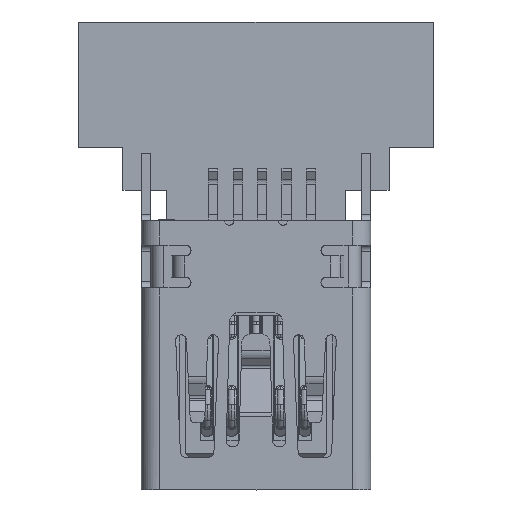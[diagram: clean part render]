
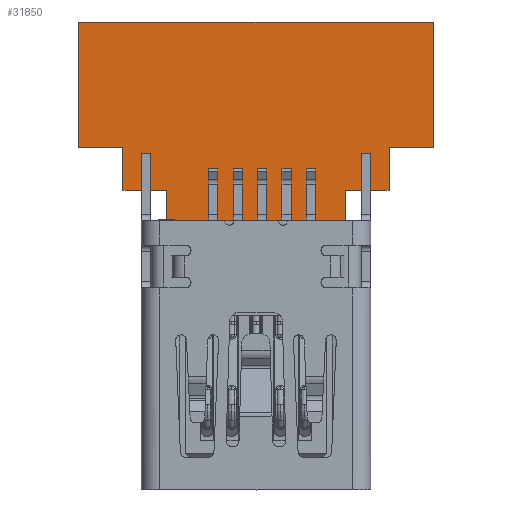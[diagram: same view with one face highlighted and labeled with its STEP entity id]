
A CAD part, top view. The second image highlights one B-rep face of the part: STEP entity #31850.
In plain terms, the highlighted planar face has unit normal (0, 0, 1).
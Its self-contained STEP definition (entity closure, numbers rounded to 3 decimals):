
#31460=CARTESIAN_POINT('Vertex',(2.925,3.2,2.15)) ;
#31474=CARTESIAN_POINT('Vertex',(2.925,4.2,2.15)) ;
#31477=CARTESIAN_POINT('Line Origine',(2.925,3.7,2.15)) ;
#31505=CARTESIAN_POINT('Vertex',(4.35,4.2,2.15)) ;
#31508=CARTESIAN_POINT('Line Origine',(3.638,4.2,2.15)) ;
#31536=CARTESIAN_POINT('Vertex',(4.35,5.6,2.15)) ;
#31539=CARTESIAN_POINT('Line Origine',(4.35,4.9,2.15)) ;
#31567=CARTESIAN_POINT('Vertex',(5.8,5.6,2.15)) ;
#31570=CARTESIAN_POINT('Line Origine',(5.075,5.6,2.15)) ;
#31598=CARTESIAN_POINT('Vertex',(5.8,9.7,2.15)) ;
#31601=CARTESIAN_POINT('Line Origine',(5.8,7.65,2.15)) ;
#31629=CARTESIAN_POINT('Vertex',(-5.8,9.7,2.15)) ;
#31632=CARTESIAN_POINT('Line Origine',(0.,9.7,2.15)) ;
#31660=CARTESIAN_POINT('Vertex',(-5.8,5.6,2.15)) ;
#31663=CARTESIAN_POINT('Line Origine',(-5.8,7.65,2.15)) ;
#31686=CARTESIAN_POINT('Vertex',(-4.35,5.6,2.15)) ;
#31689=CARTESIAN_POINT('Line Origine',(-5.075,5.6,2.15)) ;
#31717=CARTESIAN_POINT('Vertex',(-4.35,4.2,2.15)) ;
#31720=CARTESIAN_POINT('Line Origine',(-4.35,4.9,2.15)) ;
#31743=CARTESIAN_POINT('Vertex',(-2.925,4.2,2.15)) ;
#31746=CARTESIAN_POINT('Line Origine',(-3.638,4.2,2.15)) ;
#31774=CARTESIAN_POINT('Vertex',(-2.925,3.2,2.15)) ;
#31777=CARTESIAN_POINT('Line Origine',(-2.925,3.7,2.15)) ;
#31799=CARTESIAN_POINT('Line Origine',(0.,3.2,2.15)) ;
#31831=CARTESIAN_POINT('Axis2P3D Location',(0.,0.,2.15)) ;
#31478=DIRECTION('Vector Direction',(0.,1.,0.)) ;
#31509=DIRECTION('Vector Direction',(1.,0.,0.)) ;
#31540=DIRECTION('Vector Direction',(0.,1.,0.)) ;
#31571=DIRECTION('Vector Direction',(1.,0.,0.)) ;
#31602=DIRECTION('Vector Direction',(0.,1.,0.)) ;
#31633=DIRECTION('Vector Direction',(-1.,0.,0.)) ;
#31664=DIRECTION('Vector Direction',(0.,-1.,0.)) ;
#31690=DIRECTION('Vector Direction',(1.,0.,0.)) ;
#31721=DIRECTION('Vector Direction',(0.,-1.,0.)) ;
#31747=DIRECTION('Vector Direction',(1.,0.,0.)) ;
#31778=DIRECTION('Vector Direction',(0.,-1.,0.)) ;
#31800=DIRECTION('Vector Direction',(1.,0.,0.)) ;
#31832=DIRECTION('Axis2P3D Direction',(0.,-0.,1.)) ;
#31833=DIRECTION('Axis2P3D XDirection',(1.,0.,0.)) ;
#31834=AXIS2_PLACEMENT_3D('Plane Axis2P3D',#31831,#31832,#31833) ;
#31837=ORIENTED_EDGE('',*,*,#31481,.T.) ;
#31838=ORIENTED_EDGE('',*,*,#31512,.T.) ;
#31839=ORIENTED_EDGE('',*,*,#31543,.T.) ;
#31840=ORIENTED_EDGE('',*,*,#31574,.T.) ;
#31841=ORIENTED_EDGE('',*,*,#31605,.T.) ;
#31842=ORIENTED_EDGE('',*,*,#31636,.T.) ;
#31843=ORIENTED_EDGE('',*,*,#31667,.T.) ;
#31844=ORIENTED_EDGE('',*,*,#31693,.T.) ;
#31845=ORIENTED_EDGE('',*,*,#31724,.T.) ;
#31846=ORIENTED_EDGE('',*,*,#31750,.T.) ;
#31847=ORIENTED_EDGE('',*,*,#31781,.T.) ;
#31848=ORIENTED_EDGE('',*,*,#31803,.T.) ;
#31479=VECTOR('Line Direction',#31478,1.) ;
#31510=VECTOR('Line Direction',#31509,1.) ;
#31541=VECTOR('Line Direction',#31540,1.) ;
#31572=VECTOR('Line Direction',#31571,1.) ;
#31603=VECTOR('Line Direction',#31602,1.) ;
#31634=VECTOR('Line Direction',#31633,1.) ;
#31665=VECTOR('Line Direction',#31664,1.) ;
#31691=VECTOR('Line Direction',#31690,1.) ;
#31722=VECTOR('Line Direction',#31721,1.) ;
#31748=VECTOR('Line Direction',#31747,1.) ;
#31779=VECTOR('Line Direction',#31778,1.) ;
#31801=VECTOR('Line Direction',#31800,1.) ;
#31850=ADVANCED_FACE('\X2\96F64EF651E04F554F53\X0\',(#31849),#31835,.T.) ;
#31481=EDGE_CURVE('',#31461,#31475,#31480,.T.) ;
#31512=EDGE_CURVE('',#31475,#31506,#31511,.T.) ;
#31543=EDGE_CURVE('',#31506,#31537,#31542,.T.) ;
#31574=EDGE_CURVE('',#31537,#31568,#31573,.T.) ;
#31605=EDGE_CURVE('',#31568,#31599,#31604,.T.) ;
#31636=EDGE_CURVE('',#31599,#31630,#31635,.T.) ;
#31667=EDGE_CURVE('',#31630,#31661,#31666,.T.) ;
#31693=EDGE_CURVE('',#31661,#31687,#31692,.T.) ;
#31724=EDGE_CURVE('',#31687,#31718,#31723,.T.) ;
#31750=EDGE_CURVE('',#31718,#31744,#31749,.T.) ;
#31781=EDGE_CURVE('',#31744,#31775,#31780,.T.) ;
#31803=EDGE_CURVE('',#31775,#31461,#31802,.T.) ;
#31836=EDGE_LOOP('',(#31837,#31838,#31839,#31840,#31841,#31842,#31843,#31844,#31845,#31846,#31847,#31848)) ;
#31849=FACE_OUTER_BOUND('',#31836,.T.) ;
#31480=LINE('Line',#31477,#31479) ;
#31511=LINE('Line',#31508,#31510) ;
#31542=LINE('Line',#31539,#31541) ;
#31573=LINE('Line',#31570,#31572) ;
#31604=LINE('Line',#31601,#31603) ;
#31635=LINE('Line',#31632,#31634) ;
#31666=LINE('Line',#31663,#31665) ;
#31692=LINE('Line',#31689,#31691) ;
#31723=LINE('Line',#31720,#31722) ;
#31749=LINE('Line',#31746,#31748) ;
#31780=LINE('Line',#31777,#31779) ;
#31802=LINE('Line',#31799,#31801) ;
#31835=PLANE('',#31834) ;
#31461=VERTEX_POINT('',#31460) ;
#31475=VERTEX_POINT('',#31474) ;
#31506=VERTEX_POINT('',#31505) ;
#31537=VERTEX_POINT('',#31536) ;
#31568=VERTEX_POINT('',#31567) ;
#31599=VERTEX_POINT('',#31598) ;
#31630=VERTEX_POINT('',#31629) ;
#31661=VERTEX_POINT('',#31660) ;
#31687=VERTEX_POINT('',#31686) ;
#31718=VERTEX_POINT('',#31717) ;
#31744=VERTEX_POINT('',#31743) ;
#31775=VERTEX_POINT('',#31774) ;
